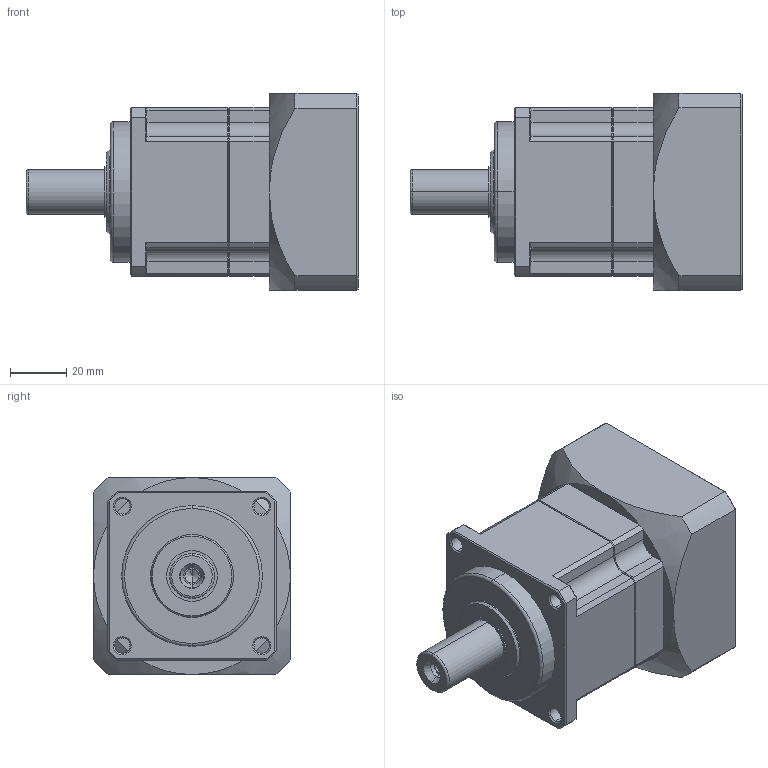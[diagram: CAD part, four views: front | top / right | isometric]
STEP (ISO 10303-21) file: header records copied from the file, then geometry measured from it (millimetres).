
FILE_DESCRIPTION(/* description */ (''),/* implementation_level */ '2;1');
FILE_NAME(/* name */ 'TB060-L1-14-60-75-M5-34-6.stp',/* time_stamp */ '2022-03-02T08:58:00+08:00',/* author */ (''),/* organization */ (''),/* preprocessor_version */ 'ST-DEVELOPER v16',/* originating_system */ 'SIEMENS PLM Software NX 10.0',/* authorisation */ '');
FILE_SCHEMA (('AUTOMOTIVE_DESIGN { 1 0 10303 214 3 1 1 1 }'));
Length unit declared in the file: millimetre
Products named in the file (1): TB060-L1-14-60-75-M5-34-6_step
Bounding box: 118 x 70 x 70 mm (x, y, z)
Volume: 293413.8 mm3; surface area: 50975.8 mm2
Topology: 3 solids, 3 shells, 278 faces, 641 edges, 375 vertices
Faces by surface type: plane 102, cylinder 86, cone 82, torus 4, bspline 4
Entity records: 7948 total; most frequent: CARTESIAN_POINT 1653, DIRECTION 1359, ORIENTED_EDGE 1262, EDGE_CURVE 631, AXIS2_PLACEMENT_3D 532, VERTEX_POINT 375, EDGE_LOOP 310, LINE 295
